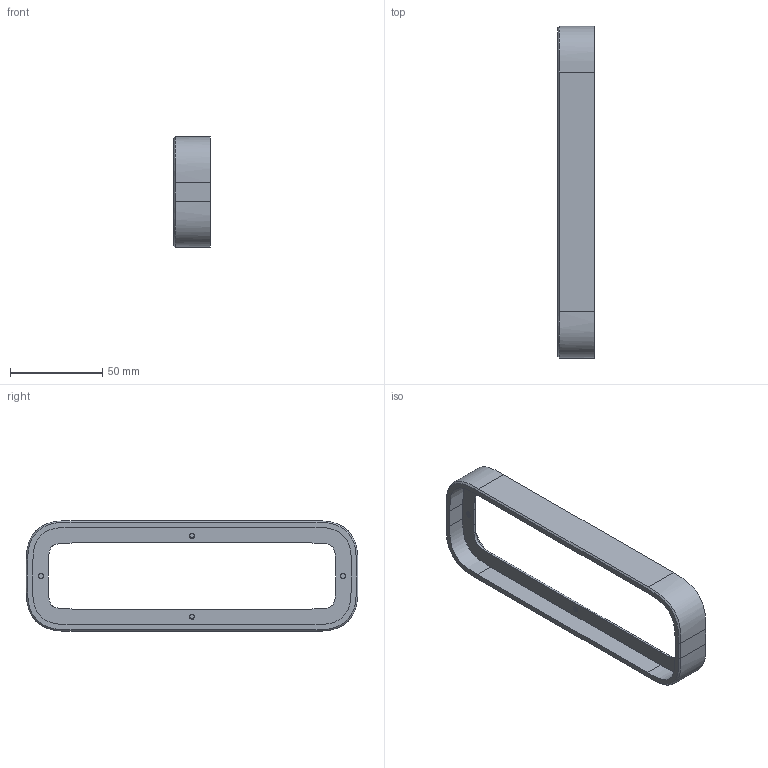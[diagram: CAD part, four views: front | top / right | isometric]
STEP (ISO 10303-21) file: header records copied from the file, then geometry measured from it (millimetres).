
FILE_DESCRIPTION(/* description */ (''),/* implementation_level */ '2;1');
FILE_NAME(/* name */ 'EXTERNAL FRONT FRAME.step',/* time_stamp */ '2024-02-28T16:19:14Z',/* author */ (''),/* organization */ (''),/* preprocessor_version */ 'ST-DEVELOPER v20',/* originating_system */ 'Autodesk Translation Framework v12.20.1.177',/* authorisation */ '');
FILE_SCHEMA (('AUTOMOTIVE_DESIGN { 1 0 10303 214 3 1 1 }'));
Length unit declared in the file: millimetre
Products named in the file (1): EXTERNAL FRONT FRAME
Bounding box: 20 x 180 x 60 mm (x, y, z)
Volume: 44569.8 mm3; surface area: 24830.6 mm2
Topology: 1 solids, 1 shells, 83 faces, 220 edges, 144 vertices
Faces by surface type: cylinder 36, bspline 28, plane 19
Full cylindrical faces by diameter (mm): 2.529 x4, 3.086 x4
Entity records: 6812 total; most frequent: CARTESIAN_POINT 5034, ORIENTED_EDGE 440, DIRECTION 224, EDGE_CURVE 220, VERTEX_POINT 144, B_SPLINE_CURVE_WITH_KNOTS 116, EDGE_LOOP 90, FACE_OUTER_BOUND 83
